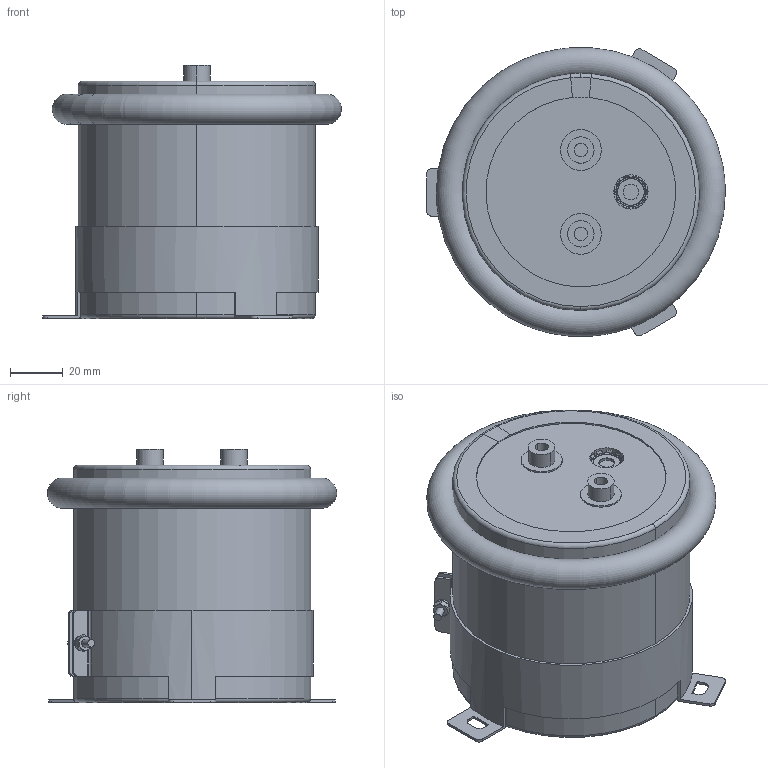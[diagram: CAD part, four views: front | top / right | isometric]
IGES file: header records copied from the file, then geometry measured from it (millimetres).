
Start section: 3D InterOp IGES (v. 2019 1.0.2), Spatial Corp. Copyright (c) 1999-2017.
Global section: file name: 90x90_Screw.igs; native system: Spatial Corp.; preprocessor: 3D InterOp ACIS/IGES; author: Noname; organization: Noname; date: 20220314.144305; units: millimetre
Bounding box: 113.33 x 109.66 x 96 mm (x, y, z)
Volume: 917242.9 mm3; surface area: 256730.9 mm2
Topology: 9 solids, 9 shells, 352 faces, 953 edges, 591 vertices
Faces by surface type: plane 112, cylinder 110, torus 90, cone 38, sphere 2
